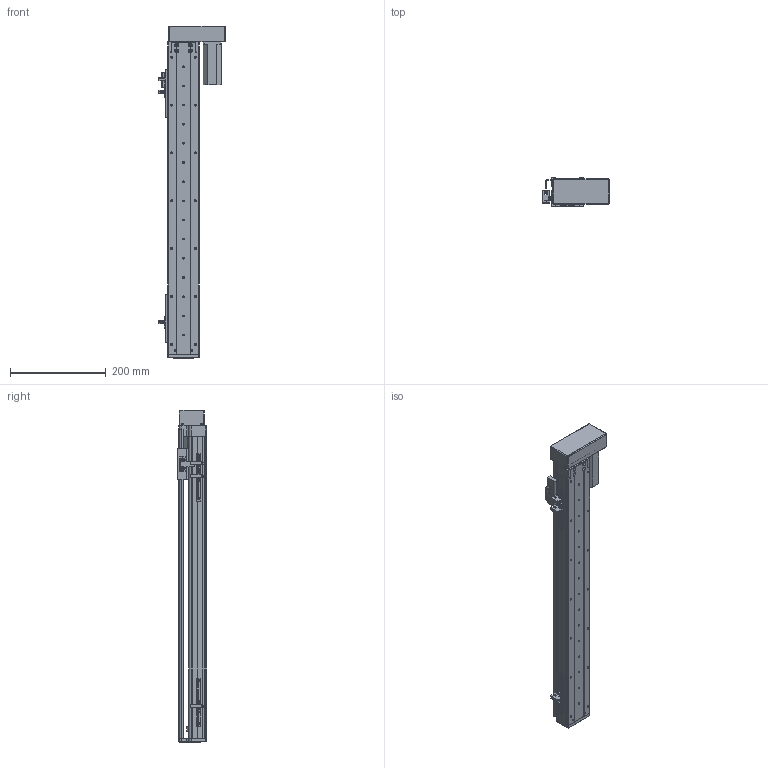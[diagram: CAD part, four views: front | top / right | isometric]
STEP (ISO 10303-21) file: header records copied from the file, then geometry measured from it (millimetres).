
FILE_DESCRIPTION (( 'STEP AP203' ), '1' );
FILE_NAME ('RY60-L1210-300-RK.SLDASM_500.step', '2021-02-20T06:52:38', ( '盈信电脑' ), ( '东莞市道滘镇水果街19号' ), 'SwSTEP 2.0', 'SolidWorks 2012', '' );
FILE_SCHEMA (( 'CONFIG_CONTROL_DESIGN' ));
Length unit declared in the file: millimetre
Products named in the file (13): 覜茼ん672; RY60-L1210-300-RK.SLDASM_500; 672嫖萇羲壽假蚾釱; RY80俋离覜茼え; RY60酘衵殏萇儂欶; 侂狟100W; RY60左右折电机安装板; RY60转折电机端支撑座; 滅袉蝶18-10; RY60綴裔啣; RY60-300倰第菁釱-RK_500; RY60-300倰第裔啣-RK_500; RY60臏賑輸
Assembly tree (18 placements, depth 2):
  RY60-L1210-300-RK.SLDASM_500
    RY60-300倰第菁釱-RK_500
    RY60臏賑輸
    RY60-300倰第裔啣-RK_500
    RY60綴裔啣
    滅袉蝶18-10  x4
    RY60转折电机端支撑座
    RY60左右折电机安装板
    侂狟100W
    RY60酘衵殏萇儂欶
    RY80俋离覜茼え
    672嫖萇羲壽假蚾釱  x2
    覜茼ん672  x3
Bounding box: 137.9 x 61 x 693 mm (x, y, z)
Volume: 916033.6 mm3; surface area: 462720 mm2
Topology: 18 solids, 18 shells, 1451 faces, 4061 edges, 2602 vertices
Faces by surface type: plane 721, cylinder 605, cone 108, bspline 17
Entity records: 43516 total; most frequent: CARTESIAN_POINT 10391, ORIENTED_EDGE 6690, DIRECTION 6479, EDGE_CURVE 3345, AXIS2_PLACEMENT_3D 2220, VERTEX_POINT 2182, LINE 2039, VECTOR 2039
